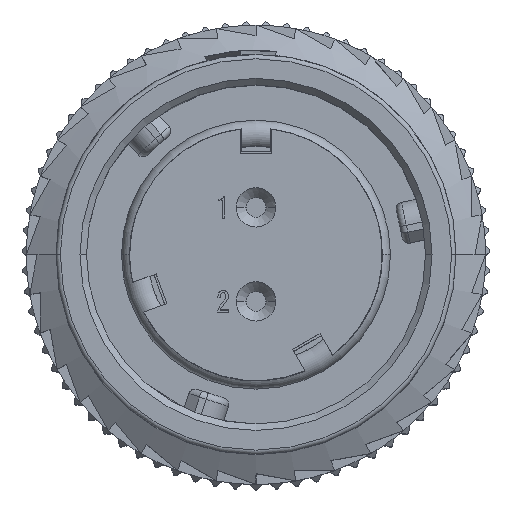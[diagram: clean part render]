
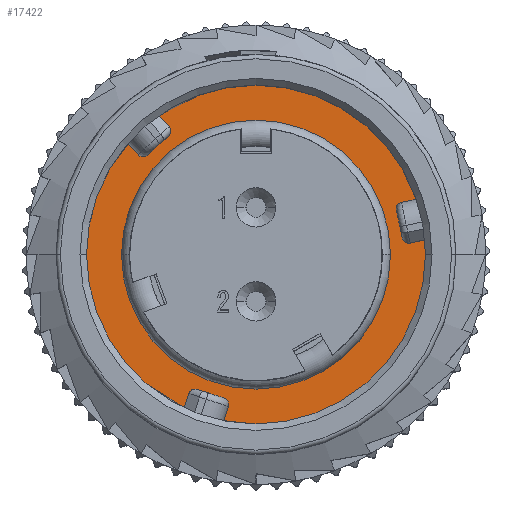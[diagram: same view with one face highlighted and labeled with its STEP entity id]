
A CAD part, top view. The second image highlights one B-rep face of the part: STEP entity #17422.
In plain terms, the highlighted planar face has unit normal (0, 0, 1).
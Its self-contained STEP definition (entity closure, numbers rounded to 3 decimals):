
#647 = DIRECTION ( 'NONE',  ( 1., 0., 0. ) ) ;
#771 = PLANE ( 'NONE',  #7530 ) ;
#1394 = ORIENTED_EDGE ( 'NONE', *, *, #6159, .T. ) ;
#1953 = EDGE_CURVE ( 'NONE', #3347, #14324, #5855, .T. ) ;
#3271 = VERTEX_POINT ( 'NONE', #30820 ) ;
#3347 = VERTEX_POINT ( 'NONE', #17609 ) ;
#5855 = CIRCLE ( 'NONE', #21116, 5.66 ) ;
#6159 = EDGE_CURVE ( 'NONE', #14324, #3347, #22030, .T. ) ;
#7530 = AXIS2_PLACEMENT_3D ( 'NONE', #26866, #17115, #39865 ) ;
#10449 = EDGE_LOOP ( 'NONE', ( #1394, #34682 ) ) ;
#12698 = AXIS2_PLACEMENT_3D ( 'NONE', #35470, #15959, #38705 ) ;
#14223 = CARTESIAN_POINT ( 'NONE',  ( -7.75, 0., -7.585 ) ) ;
#14324 = VERTEX_POINT ( 'NONE', #29587 ) ;
#14628 = ORIENTED_EDGE ( 'NONE', *, *, #40407, .T. ) ;
#14733 = CIRCLE ( 'NONE', #30180, 7.75 ) ;
#14801 = EDGE_CURVE ( 'NONE', #3271, #35287, #14733, .T. ) ;
#15959 = DIRECTION ( 'NONE',  ( 0., 0., -1. ) ) ;
#17115 = DIRECTION ( 'NONE',  ( 0., 0., -1. ) ) ;
#17422 = ADVANCED_FACE ( 'NONE', ( #34414, #22762 ), #771, .F. ) ;
#17609 = CARTESIAN_POINT ( 'NONE',  ( -5.66, 0., -7.585 ) ) ;
#18625 = CARTESIAN_POINT ( 'NONE',  ( 0., 0., -7.585 ) ) ;
#20200 = DIRECTION ( 'NONE',  ( 0., 0., 1. ) ) ;
#21116 = AXIS2_PLACEMENT_3D ( 'NONE', #37087, #41569, #22397 ) ;
#21948 = DIRECTION ( 'NONE',  ( 1., 0., 0. ) ) ;
#22030 = CIRCLE ( 'NONE', #12698, 5.66 ) ;
#22397 = DIRECTION ( 'NONE',  ( 1., 0., 0. ) ) ;
#22762 = FACE_BOUND ( 'NONE', #10449, .T. ) ;
#23910 = EDGE_LOOP ( 'NONE', ( #32500, #14628 ) ) ;
#26866 = CARTESIAN_POINT ( 'NONE',  ( -0.22, 0.46, -7.585 ) ) ;
#29577 = AXIS2_PLACEMENT_3D ( 'NONE', #39608, #20200, #647 ) ;
#29587 = CARTESIAN_POINT ( 'NONE',  ( 5.66, 0., -7.585 ) ) ;
#30180 = AXIS2_PLACEMENT_3D ( 'NONE', #18625, #41314, #21948 ) ;
#30820 = CARTESIAN_POINT ( 'NONE',  ( 7.75, 0., -7.585 ) ) ;
#32500 = ORIENTED_EDGE ( 'NONE', *, *, #14801, .T. ) ;
#34414 = FACE_OUTER_BOUND ( 'NONE', #23910, .T. ) ;
#34682 = ORIENTED_EDGE ( 'NONE', *, *, #1953, .T. ) ;
#35287 = VERTEX_POINT ( 'NONE', #14223 ) ;
#35470 = CARTESIAN_POINT ( 'NONE',  ( 0., 0., -7.585 ) ) ;
#36866 = CIRCLE ( 'NONE', #29577, 7.75 ) ;
#37087 = CARTESIAN_POINT ( 'NONE',  ( 0., 0., -7.585 ) ) ;
#38705 = DIRECTION ( 'NONE',  ( 1., 0., 0. ) ) ;
#39608 = CARTESIAN_POINT ( 'NONE',  ( 0., 0., -7.585 ) ) ;
#39865 = DIRECTION ( 'NONE',  ( -1., 0., 0. ) ) ;
#40407 = EDGE_CURVE ( 'NONE', #35287, #3271, #36866, .T. ) ;
#41314 = DIRECTION ( 'NONE',  ( 0., 0., 1. ) ) ;
#41569 = DIRECTION ( 'NONE',  ( 0., 0., -1. ) ) ;
